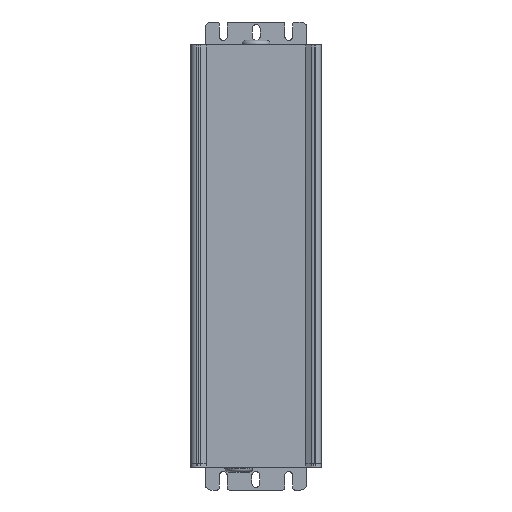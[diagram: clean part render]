
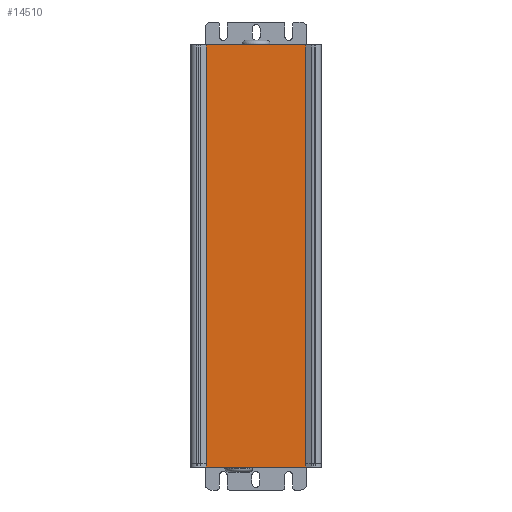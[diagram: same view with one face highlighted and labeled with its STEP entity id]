
A CAD part, left-side view. The second image highlights one B-rep face of the part: STEP entity #14510.
In plain terms, the highlighted planar face has unit normal (-1, 0, 0).
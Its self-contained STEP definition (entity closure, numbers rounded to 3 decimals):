
#11870=CARTESIAN_POINT('',(1771.873,-2398.52,-5.));
#11880=VERTEX_POINT('',#11870);
#12050=CARTESIAN_POINT('',(1771.873,-2398.564,
213.6));
#12060=VERTEX_POINT('',#12050);
#12090=CARTESIAN_POINT('',(1771.873,-2398.564,
223.6));
#12100=DIRECTION('',(0.,0.,-1.));
#12110=VECTOR('',#12100,1.);
#12120=LINE('',#12090,#12110);
#12130=CARTESIAN_POINT('',(1771.873,-2398.564,-5.));
#12140=VERTEX_POINT('',#12130);
#12150=EDGE_CURVE('',#12060,#12140,#12120,.T.);
#12170=CARTESIAN_POINT('',(1771.873,-2398.564,-5.));
#12180=DIRECTION('',(0.,1.,0.));
#12190=VECTOR('',#12180,1.);
#12200=LINE('',#12170,#12190);
#12210=EDGE_CURVE('',#12140,#11880,#12200,.T.);
#13960=CARTESIAN_POINT('',(1771.873,-2450.564,10.));
#13970=DIRECTION('',(-1.,0.,0.));
#13980=DIRECTION('',(0.,1.,0.));
#13990=AXIS2_PLACEMENT_3D('',#13960,#13970,#13980);
#14000=PLANE('',#13990);
#14010=CARTESIAN_POINT('',(1771.873,-2450.514,-5.));
#14020=DIRECTION('',(0.,0.,-1.));
#14030=VECTOR('',#14020,1.);
#14040=LINE('',#14010,#14030);
#14050=CARTESIAN_POINT('',(1771.873,-2450.514,-5.));
#14060=VERTEX_POINT('',#14050);
#14070=CARTESIAN_POINT('',(1771.873,-2450.514,-6.6));
#14080=VERTEX_POINT('',#14070);
#14090=EDGE_CURVE('',#14060,#14080,#14040,.T.);
#14100=ORIENTED_EDGE('',*,*,#14090,.F.);
#14110=CARTESIAN_POINT('',(1771.873,-2398.514,-6.6));
#14120=DIRECTION('',(0.,-1.,0.));
#14130=VECTOR('',#14120,1.);
#14140=LINE('',#14110,#14130);
#14150=CARTESIAN_POINT('',(1771.873,-2398.514,-6.6));
#14160=VERTEX_POINT('',#14150);
#14170=EDGE_CURVE('',#14160,#14080,#14140,.T.);
#14180=ORIENTED_EDGE('',*,*,#14170,.T.);
#14190=CARTESIAN_POINT('',(1771.873,-2398.514,-5.));
#14200=DIRECTION('',(0.,0.,-1.));
#14210=VECTOR('',#14200,1.);
#14220=LINE('',#14190,#14210);
#14230=EDGE_CURVE('',#11880,#14160,#14220,.T.);
#14240=ORIENTED_EDGE('',*,*,#14230,.T.);
#14250=ORIENTED_EDGE('',*,*,#12210,.T.);
#14260=ORIENTED_EDGE('',*,*,#12150,.T.);
#14270=CARTESIAN_POINT('',(1771.873,-2450.564,
213.6));
#14280=DIRECTION('',(0.,1.,0.));
#14290=VECTOR('',#14280,1.);
#14300=LINE('',#14270,#14290);
#14310=CARTESIAN_POINT('',(1771.873,-2450.564,
213.6));
#14320=VERTEX_POINT('',#14310);
#14330=EDGE_CURVE('',#14320,#12060,#14300,.T.);
#14340=ORIENTED_EDGE('',*,*,#14330,.T.);
#14350=CARTESIAN_POINT('',(1771.873,-2450.564,
223.6));
#14360=DIRECTION('',(0.,0.,-1.));
#14370=VECTOR('',#14360,1.);
#14380=LINE('',#14350,#14370);
#14390=CARTESIAN_POINT('',(1771.873,-2450.564,-5.));
#14400=VERTEX_POINT('',#14390);
#14410=EDGE_CURVE('',#14320,#14400,#14380,.T.);
#14420=ORIENTED_EDGE('',*,*,#14410,.F.);
#14430=CARTESIAN_POINT('',(1771.873,-2450.514,-5.));
#14440=DIRECTION('',(0.,-1.,0.));
#14450=VECTOR('',#14440,1.);
#14460=LINE('',#14430,#14450);
#14470=EDGE_CURVE('',#14060,#14400,#14460,.T.);
#14480=ORIENTED_EDGE('',*,*,#14470,.T.);
#14490=EDGE_LOOP('',(#14480,#14420,#14340,#14260,#14250,#14240,#14180,
#14100));
#14500=FACE_OUTER_BOUND('',#14490,.T.);
#14510=ADVANCED_FACE('',(#14500),#14000,.T.);
